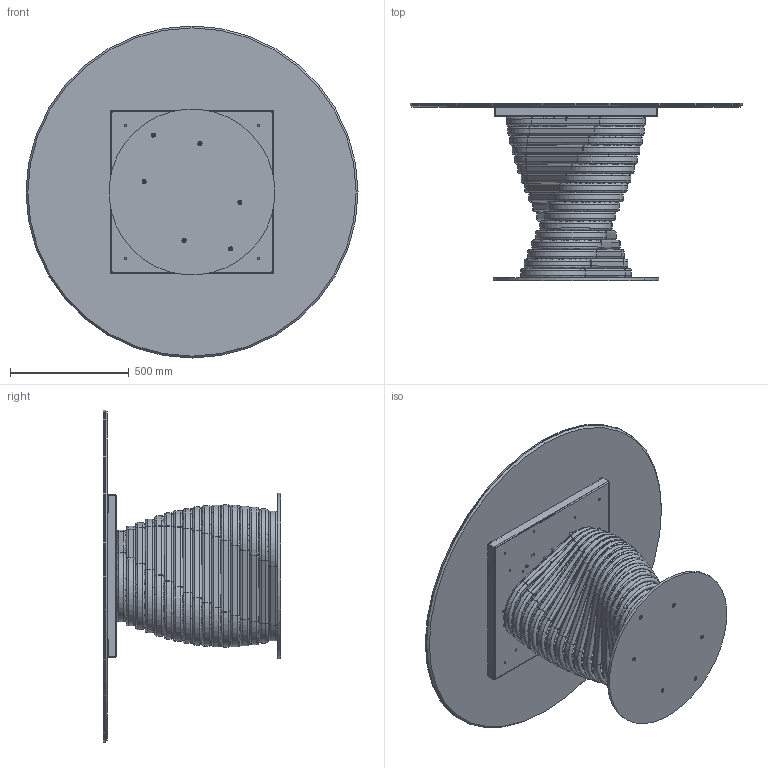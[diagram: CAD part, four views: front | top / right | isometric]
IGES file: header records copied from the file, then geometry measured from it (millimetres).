
Start section: SolidWorks IGES file using analytic representation for surfaces
Global section: file name: Y:\eforma\TECNICO\SOLIDWORKS\E-FORMA\1-TAVOLI\ROTOLO\02 parts\RO06C.IGS; native system: SolidWorks 2022; preprocessor: SolidWorks 2022; author: eforma.tech; date: 240807.150941; units: millimetre
Bounding box: 1400 x 748 x 1400 mm (x, y, z)
Volume: 36316842.1 mm3; surface area: 13092449.8 mm2
Topology: 98 solids, 98 shells, 1638 faces, 4010 edges, 2548 vertices
Faces by surface type: revolution 942, plane 696
